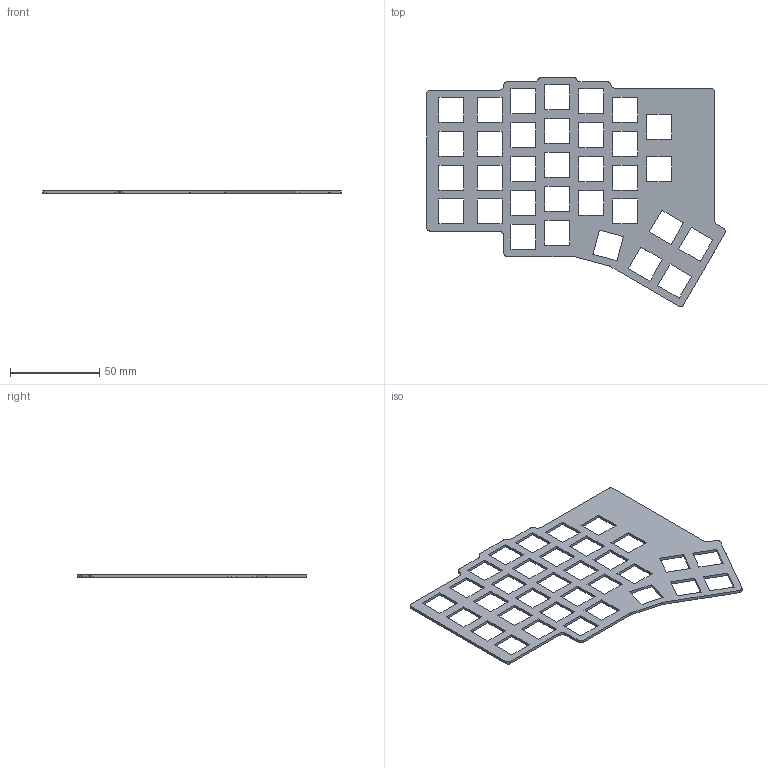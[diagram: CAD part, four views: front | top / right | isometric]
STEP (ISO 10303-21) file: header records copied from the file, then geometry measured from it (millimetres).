
FILE_DESCRIPTION(('Open CASCADE Model'),'2;1');
FILE_NAME('Open CASCADE Shape Model','2026-09-20T16:04:59',('Author'),( 'Open CASCADE'),'Open CASCADE STEP processor 8.0','Open CASCADE 8.0' ,'Unknown');
FILE_SCHEMA(('AP242_MANAGED_MODEL_BASED_3D_ENGINEERING_MIM_LF {1 0 10303 442 1 1 4 }' ));
Length unit declared in the file: millimetre
Products named in the file (1): Open CASCADE STEP translator 8.0 41
Bounding box: 167.42 x 128.41 x 1.5 mm (x, y, z)
Volume: 14085.6 mm3; surface area: 22359.1 mm2
Topology: 1 solids, 1 shells, 170 faces, 504 edges, 336 vertices
Faces by surface type: plane 149, cylinder 21
Entity records: 12364 total; most frequent: CARTESIAN_POINT 2139, DIRECTION 1876, LINE 1428, VECTOR 1428, ORIENTED_EDGE 1008, PCURVE 1008, DEFINITIONAL_REPRESENTATION 1008, EDGE_CURVE 504
